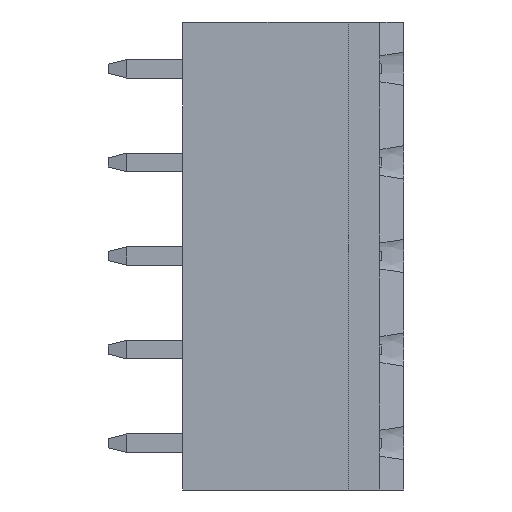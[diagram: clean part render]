
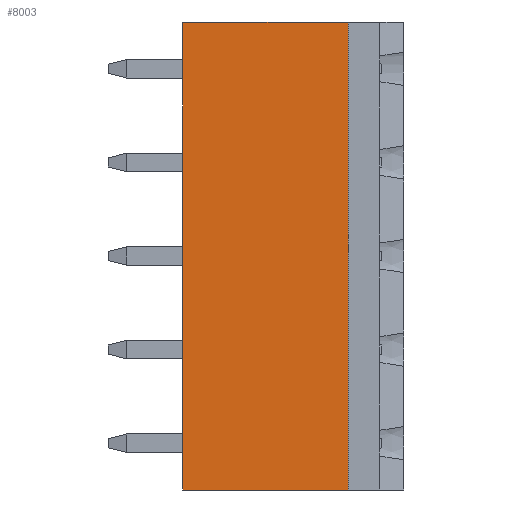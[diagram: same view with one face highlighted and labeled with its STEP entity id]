
A CAD part, left-side view. The second image highlights one B-rep face of the part: STEP entity #8003.
In plain terms, the highlighted planar face has unit normal (-1, 0, 0).
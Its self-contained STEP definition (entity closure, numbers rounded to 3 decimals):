
#361 = CARTESIAN_POINT ( 'NONE',  ( -3.9, 12., 0. ) ) ;
#535 = EDGE_CURVE ( 'NONE', #9721, #4644, #12105, .T. ) ;
#986 = VECTOR ( 'NONE', #2331, 1000. ) ;
#1056 = VERTEX_POINT ( 'NONE', #2626 ) ;
#1855 = VECTOR ( 'NONE', #3297, 1000. ) ;
#2040 = CARTESIAN_POINT ( 'NONE',  ( -3.9, 12., 0. ) ) ;
#2331 = DIRECTION ( 'NONE',  ( 0., 0., 1. ) ) ;
#2493 = CARTESIAN_POINT ( 'NONE',  ( -3.9, 3., 25.4 ) ) ;
#2522 = DIRECTION ( 'NONE',  ( 0., -1., 0. ) ) ;
#2626 = CARTESIAN_POINT ( 'NONE',  ( -3.9, 3., 0. ) ) ;
#2660 = EDGE_CURVE ( 'NONE', #4675, #1056, #12394, .T. ) ;
#3084 = DIRECTION ( 'NONE',  ( -1., 0., 0. ) ) ;
#3297 = DIRECTION ( 'NONE',  ( 0., -1., 0. ) ) ;
#3632 = CARTESIAN_POINT ( 'NONE',  ( -3.9, 12., 0. ) ) ;
#3885 = ORIENTED_EDGE ( 'NONE', *, *, #12180, .T. ) ;
#4644 = VERTEX_POINT ( 'NONE', #12668 ) ;
#4675 = VERTEX_POINT ( 'NONE', #4815 ) ;
#4815 = CARTESIAN_POINT ( 'NONE',  ( -3.9, 3., 25.4 ) ) ;
#5369 = AXIS2_PLACEMENT_3D ( 'NONE', #2040, #3084, #8149 ) ;
#6110 = PLANE ( 'NONE',  #5369 ) ;
#6353 = CARTESIAN_POINT ( 'NONE',  ( -3.9, 12., 0. ) ) ;
#8003 = ADVANCED_FACE ( 'NONE', ( #12066 ), #6110, .T. ) ;
#8149 = DIRECTION ( 'NONE',  ( 0., 0., 1. ) ) ;
#8244 = LINE ( 'NONE', #3632, #8359 ) ;
#8359 = VECTOR ( 'NONE', #2522, 1000. ) ;
#8362 = CARTESIAN_POINT ( 'NONE',  ( -3.9, 12., 25.4 ) ) ;
#9721 = VERTEX_POINT ( 'NONE', #6353 ) ;
#9759 = ORIENTED_EDGE ( 'NONE', *, *, #535, .F. ) ;
#10134 = LINE ( 'NONE', #8362, #1855 ) ;
#10436 = EDGE_CURVE ( 'NONE', #4644, #4675, #10134, .T. ) ;
#10442 = DIRECTION ( 'NONE',  ( 0., 0., -1. ) ) ;
#10610 = ORIENTED_EDGE ( 'NONE', *, *, #2660, .F. ) ;
#11012 = EDGE_LOOP ( 'NONE', ( #3885, #10610, #11649, #9759 ) ) ;
#11649 = ORIENTED_EDGE ( 'NONE', *, *, #10436, .F. ) ;
#12066 = FACE_OUTER_BOUND ( 'NONE', #11012, .T. ) ;
#12105 = LINE ( 'NONE', #361, #986 ) ;
#12180 = EDGE_CURVE ( 'NONE', #9721, #1056, #8244, .T. ) ;
#12394 = LINE ( 'NONE', #2493, #12956 ) ;
#12668 = CARTESIAN_POINT ( 'NONE',  ( -3.9, 12., 25.4 ) ) ;
#12956 = VECTOR ( 'NONE', #10442, 1000. ) ;
